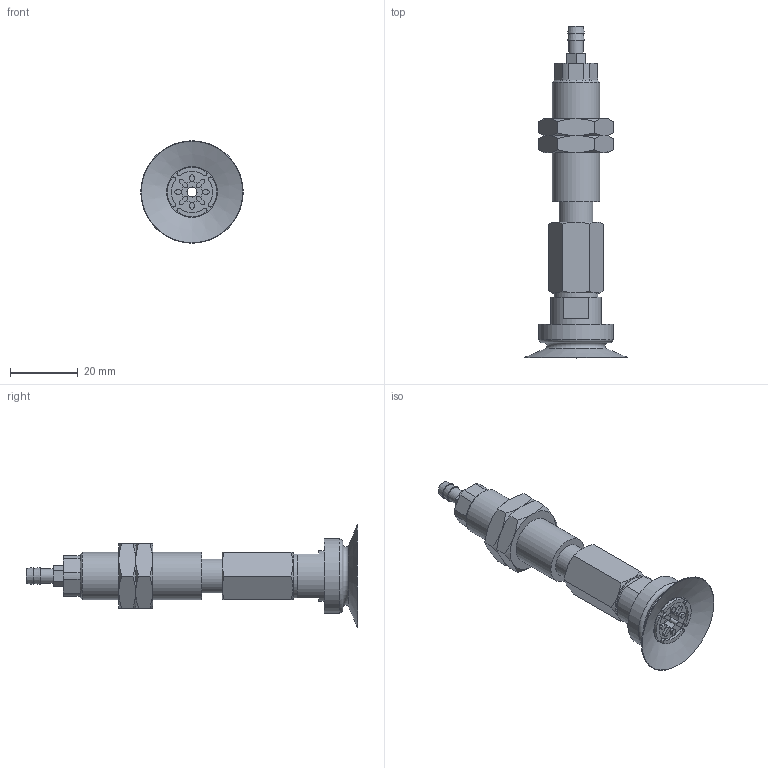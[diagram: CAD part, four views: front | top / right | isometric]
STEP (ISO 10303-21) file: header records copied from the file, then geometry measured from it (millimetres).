
FILE_DESCRIPTION(('STEP AP203'),'1');
FILE_NAME('-T.stp','2025-08-26T09:02:59',(' '),(' '),'Spatial InterOp 3D',' ',' ');
FILE_SCHEMA(('CONFIG_CONTROL_DESIGN'));
Length unit declared in the file: millimetre
Products named in the file (7): BNABPATS-30-6-※-T; ADAPTER; NAPATS-30B-6--M; NAPATS-30B-6--F; Nut-25-S; T; BPAG-30-※
Assembly tree (7 placements, depth 2):
  BNABPATS-30-6-※-T
    ADAPTER
    NAPATS-30B-6--M
    NAPATS-30B-6--F
    Nut-25-S  x2
    T
    BPAG-30-※
Bounding box: 30.3 x 98.2 x 30.3 mm (x, y, z)
Volume: 15668.2 mm3; surface area: 11972.8 mm2
Topology: 7 solids, 7 shells, 200 faces, 458 edges, 289 vertices
Faces by surface type: plane 89, cylinder 60, cone 49, torus 2
Full cylindrical faces by diameter (mm): 3 x4, 4.134 x1, 4.3 x1, 4.6 x1, 4.917 x1, 5 x1, 6 x1, 10 x2, 12.917 x2, 13 x1, 14 x1, 15 x1, 22 x1
Entity records: 5477 total; most frequent: CARTESIAN_POINT 1155, DIRECTION 867, ORIENTED_EDGE 752, EDGE_CURVE 376, AXIS2_PLACEMENT_3D 354, VERTEX_POINT 258, EDGE_LOOP 236, FACE_OUTER_BOUND 196
